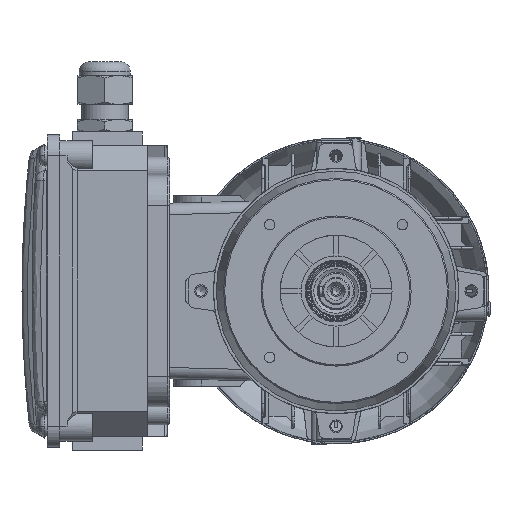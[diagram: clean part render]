
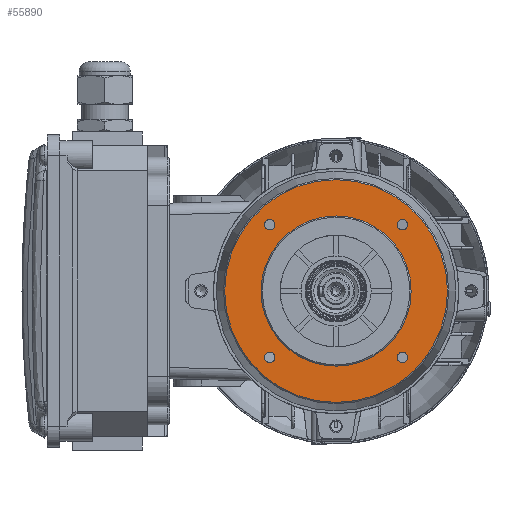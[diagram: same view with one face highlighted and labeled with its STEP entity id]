
A CAD part, left-side view. The second image highlights one B-rep face of the part: STEP entity #55890.
In plain terms, the highlighted planar face has unit normal (-1, 0, 0).
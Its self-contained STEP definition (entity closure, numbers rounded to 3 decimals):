
#1245=FACE_BOUND('',#7878,.T.);
#1246=FACE_BOUND('',#7879,.T.);
#1247=FACE_BOUND('',#7880,.T.);
#1248=FACE_BOUND('',#7881,.T.);
#1249=FACE_BOUND('',#7882,.T.);
#2283=PLANE('',#60227);
#4423=FACE_OUTER_BOUND('',#7877,.T.);
#7877=EDGE_LOOP('',(#43062));
#7878=EDGE_LOOP('',(#43063));
#7879=EDGE_LOOP('',(#43064));
#7880=EDGE_LOOP('',(#43065));
#7881=EDGE_LOOP('',(#43066));
#7882=EDGE_LOOP('',(#43067));
#20099=CIRCLE('',#59425,2.1);
#20101=CIRCLE('',#59428,2.1);
#20103=CIRCLE('',#59431,2.1);
#20105=CIRCLE('',#59434,2.1);
#20109=CIRCLE('',#59440,44.5);
#20140=CIRCLE('',#59479,30.);
#23939=VERTEX_POINT('',#101793);
#23941=VERTEX_POINT('',#101799);
#23943=VERTEX_POINT('',#101805);
#23945=VERTEX_POINT('',#101811);
#23949=VERTEX_POINT('',#101823);
#23998=VERTEX_POINT('',#101936);
#30278=EDGE_CURVE('',#23939,#23939,#20099,.T.);
#30281=EDGE_CURVE('',#23941,#23941,#20101,.T.);
#30284=EDGE_CURVE('',#23943,#23943,#20103,.T.);
#30287=EDGE_CURVE('',#23945,#23945,#20105,.T.);
#30293=EDGE_CURVE('',#23949,#23949,#20109,.T.);
#30349=EDGE_CURVE('',#23998,#23998,#20140,.T.);
#43062=ORIENTED_EDGE('',*,*,#30293,.T.);
#43063=ORIENTED_EDGE('',*,*,#30349,.F.);
#43064=ORIENTED_EDGE('',*,*,#30278,.F.);
#43065=ORIENTED_EDGE('',*,*,#30281,.F.);
#43066=ORIENTED_EDGE('',*,*,#30284,.F.);
#43067=ORIENTED_EDGE('',*,*,#30287,.F.);
#55890=ADVANCED_FACE('',(#4423,#1245,#1246,#1247,#1248,#1249),#2283,.T.);
#59425=AXIS2_PLACEMENT_3D('',#101795,#68583,#68584);
#59428=AXIS2_PLACEMENT_3D('',#101801,#68590,#68591);
#59431=AXIS2_PLACEMENT_3D('',#101807,#68597,#68598);
#59434=AXIS2_PLACEMENT_3D('',#101813,#68604,#68605);
#59440=AXIS2_PLACEMENT_3D('',#101825,#68618,#68619);
#59479=AXIS2_PLACEMENT_3D('',#101938,#68721,#68722);
#60227=AXIS2_PLACEMENT_3D('',#106965,#70505,#70506);
#68583=DIRECTION('center_axis',(-1.,0.,0.));
#68584=DIRECTION('ref_axis',(0.,0.,1.));
#68590=DIRECTION('center_axis',(-1.,0.,0.));
#68591=DIRECTION('ref_axis',(0.,0.,1.));
#68597=DIRECTION('center_axis',(-1.,0.,0.));
#68598=DIRECTION('ref_axis',(0.,0.,1.));
#68604=DIRECTION('center_axis',(-1.,0.,0.));
#68605=DIRECTION('ref_axis',(0.,0.,1.));
#68618=DIRECTION('center_axis',(-1.,0.,0.));
#68619=DIRECTION('ref_axis',(0.,0.,1.));
#68721=DIRECTION('center_axis',(-1.,0.,0.));
#68722=DIRECTION('ref_axis',(0.,0.,1.));
#70505=DIRECTION('center_axis',(-1.,0.,0.));
#70506=DIRECTION('ref_axis',(0.,0.,1.));
#101793=CARTESIAN_POINT('',(-81.,26.517,-28.617));
#101795=CARTESIAN_POINT('Origin',(-81.,26.517,-26.517));
#101799=CARTESIAN_POINT('',(-81.,-26.517,-28.617));
#101801=CARTESIAN_POINT('Origin',(-81.,-26.517,-26.517));
#101805=CARTESIAN_POINT('',(-81.,-26.517,24.417));
#101807=CARTESIAN_POINT('Origin',(-81.,-26.517,26.517));
#101811=CARTESIAN_POINT('',(-81.,26.517,24.417));
#101813=CARTESIAN_POINT('Origin',(-81.,26.517,26.517));
#101823=CARTESIAN_POINT('',(-81.,0.,44.5));
#101825=CARTESIAN_POINT('Origin',(-81.,0.,0.));
#101936=CARTESIAN_POINT('',(-81.,0.,-30.));
#101938=CARTESIAN_POINT('Origin',(-81.,0.,0.));
#106965=CARTESIAN_POINT('Origin',(-81.,45.,0.));
